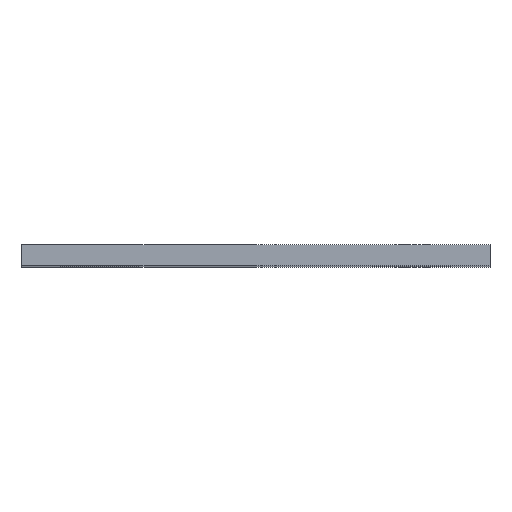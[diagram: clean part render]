
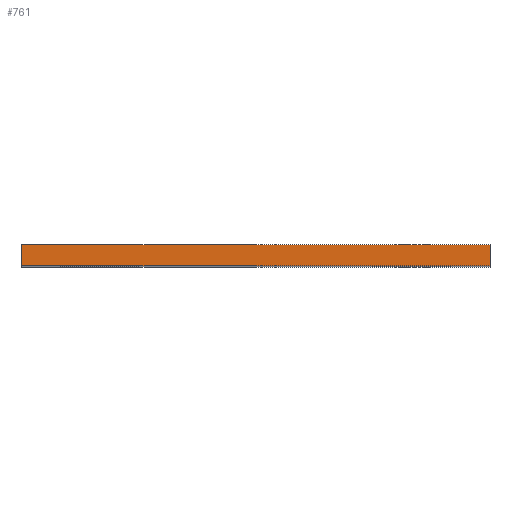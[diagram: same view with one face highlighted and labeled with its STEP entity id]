
A CAD part, top view. The second image highlights one B-rep face of the part: STEP entity #761.
In plain terms, the highlighted planar face has unit normal (0, 0, 1).
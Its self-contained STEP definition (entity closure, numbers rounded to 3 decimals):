
#24 = VERTEX_POINT('',#25);
#25 = CARTESIAN_POINT('',(78.,1.6,76.));
#32 = PLANE('',#33);
#33 = AXIS2_PLACEMENT_3D('',#34,#35,#36);
#34 = CARTESIAN_POINT('',(78.,1.6,14.));
#35 = DIRECTION('',(1.,0.,-0.));
#36 = DIRECTION('',(0.,0.,1.));
#44 = PLANE('',#45);
#45 = AXIS2_PLACEMENT_3D('',#46,#47,#48);
#46 = CARTESIAN_POINT('',(78.,1.6,14.));
#47 = DIRECTION('',(-0.,1.,0.));
#48 = DIRECTION('',(0.,0.,1.));
#85 = VERTEX_POINT('',#86);
#86 = CARTESIAN_POINT('',(78.,3.2,76.));
#100 = PLANE('',#101);
#101 = AXIS2_PLACEMENT_3D('',#102,#103,#104);
#102 = CARTESIAN_POINT('',(78.,3.2,14.));
#103 = DIRECTION('',(-0.,1.,0.));
#104 = DIRECTION('',(0.,0.,1.));
#112 = EDGE_CURVE('',#24,#85,#113,.T.);
#113 = SURFACE_CURVE('',#114,(#118,#125),.PCURVE_S1.);
#114 = LINE('',#115,#116);
#115 = CARTESIAN_POINT('',(78.,1.6,76.));
#116 = VECTOR('',#117,1.);
#117 = DIRECTION('',(-0.,1.,0.));
#118 = PCURVE('',#32,#119);
#119 = DEFINITIONAL_REPRESENTATION('',(#120),#124);
#120 = LINE('',#121,#122);
#121 = CARTESIAN_POINT('',(62.,0.));
#122 = VECTOR('',#123,1.);
#123 = DIRECTION('',(0.,-1.));
#124 = ( GEOMETRIC_REPRESENTATION_CONTEXT(2) 
PARAMETRIC_REPRESENTATION_CONTEXT() REPRESENTATION_CONTEXT('2D SPACE',''
  ) );
#125 = PCURVE('',#126,#131);
#126 = PLANE('',#127);
#127 = AXIS2_PLACEMENT_3D('',#128,#129,#130);
#128 = CARTESIAN_POINT('',(78.,1.6,76.));
#129 = DIRECTION('',(0.,0.,1.));
#130 = DIRECTION('',(1.,0.,-0.));
#131 = DEFINITIONAL_REPRESENTATION('',(#132),#136);
#132 = LINE('',#133,#134);
#133 = CARTESIAN_POINT('',(0.,0.));
#134 = VECTOR('',#135,1.);
#135 = DIRECTION('',(0.,1.));
#136 = ( GEOMETRIC_REPRESENTATION_CONTEXT(2) 
PARAMETRIC_REPRESENTATION_CONTEXT() REPRESENTATION_CONTEXT('2D SPACE',''
  ) );
#165 = EDGE_CURVE('',#24,#166,#168,.T.);
#166 = VERTEX_POINT('',#167);
#167 = CARTESIAN_POINT('',(114.,1.6,76.));
#168 = SURFACE_CURVE('',#169,(#173,#180),.PCURVE_S1.);
#169 = LINE('',#170,#171);
#170 = CARTESIAN_POINT('',(78.,1.6,76.));
#171 = VECTOR('',#172,1.);
#172 = DIRECTION('',(1.,0.,-0.));
#173 = PCURVE('',#44,#174);
#174 = DEFINITIONAL_REPRESENTATION('',(#175),#179);
#175 = LINE('',#176,#177);
#176 = CARTESIAN_POINT('',(62.,0.));
#177 = VECTOR('',#178,1.);
#178 = DIRECTION('',(0.,1.));
#179 = ( GEOMETRIC_REPRESENTATION_CONTEXT(2) 
PARAMETRIC_REPRESENTATION_CONTEXT() REPRESENTATION_CONTEXT('2D SPACE',''
  ) );
#180 = PCURVE('',#126,#181);
#181 = DEFINITIONAL_REPRESENTATION('',(#182),#186);
#182 = LINE('',#183,#184);
#183 = CARTESIAN_POINT('',(0.,0.));
#184 = VECTOR('',#185,1.);
#185 = DIRECTION('',(1.,0.));
#186 = ( GEOMETRIC_REPRESENTATION_CONTEXT(2) 
PARAMETRIC_REPRESENTATION_CONTEXT() REPRESENTATION_CONTEXT('2D SPACE',''
  ) );
#202 = PLANE('',#203);
#203 = AXIS2_PLACEMENT_3D('',#204,#205,#206);
#204 = CARTESIAN_POINT('',(114.,1.6,14.));
#205 = DIRECTION('',(1.,0.,-0.));
#206 = DIRECTION('',(0.,0.,1.));
#761 = ADVANCED_FACE('',(#762),#126,.T.);
#762 = FACE_BOUND('',#763,.T.);
#763 = EDGE_LOOP('',(#764,#765,#766,#789));
#764 = ORIENTED_EDGE('',*,*,#112,.F.);
#765 = ORIENTED_EDGE('',*,*,#165,.T.);
#766 = ORIENTED_EDGE('',*,*,#767,.T.);
#767 = EDGE_CURVE('',#166,#768,#770,.T.);
#768 = VERTEX_POINT('',#769);
#769 = CARTESIAN_POINT('',(114.,3.2,76.));
#770 = SURFACE_CURVE('',#771,(#775,#782),.PCURVE_S1.);
#771 = LINE('',#772,#773);
#772 = CARTESIAN_POINT('',(114.,1.6,76.));
#773 = VECTOR('',#774,1.);
#774 = DIRECTION('',(-0.,1.,0.));
#775 = PCURVE('',#126,#776);
#776 = DEFINITIONAL_REPRESENTATION('',(#777),#781);
#777 = LINE('',#778,#779);
#778 = CARTESIAN_POINT('',(36.,0.));
#779 = VECTOR('',#780,1.);
#780 = DIRECTION('',(0.,1.));
#781 = ( GEOMETRIC_REPRESENTATION_CONTEXT(2) 
PARAMETRIC_REPRESENTATION_CONTEXT() REPRESENTATION_CONTEXT('2D SPACE',''
  ) );
#782 = PCURVE('',#202,#783);
#783 = DEFINITIONAL_REPRESENTATION('',(#784),#788);
#784 = LINE('',#785,#786);
#785 = CARTESIAN_POINT('',(62.,0.));
#786 = VECTOR('',#787,1.);
#787 = DIRECTION('',(0.,-1.));
#788 = ( GEOMETRIC_REPRESENTATION_CONTEXT(2) 
PARAMETRIC_REPRESENTATION_CONTEXT() REPRESENTATION_CONTEXT('2D SPACE',''
  ) );
#789 = ORIENTED_EDGE('',*,*,#790,.F.);
#790 = EDGE_CURVE('',#85,#768,#791,.T.);
#791 = SURFACE_CURVE('',#792,(#796,#803),.PCURVE_S1.);
#792 = LINE('',#793,#794);
#793 = CARTESIAN_POINT('',(78.,3.2,76.));
#794 = VECTOR('',#795,1.);
#795 = DIRECTION('',(1.,0.,-0.));
#796 = PCURVE('',#126,#797);
#797 = DEFINITIONAL_REPRESENTATION('',(#798),#802);
#798 = LINE('',#799,#800);
#799 = CARTESIAN_POINT('',(0.,1.6));
#800 = VECTOR('',#801,1.);
#801 = DIRECTION('',(1.,0.));
#802 = ( GEOMETRIC_REPRESENTATION_CONTEXT(2) 
PARAMETRIC_REPRESENTATION_CONTEXT() REPRESENTATION_CONTEXT('2D SPACE',''
  ) );
#803 = PCURVE('',#100,#804);
#804 = DEFINITIONAL_REPRESENTATION('',(#805),#809);
#805 = LINE('',#806,#807);
#806 = CARTESIAN_POINT('',(62.,0.));
#807 = VECTOR('',#808,1.);
#808 = DIRECTION('',(0.,1.));
#809 = ( GEOMETRIC_REPRESENTATION_CONTEXT(2) 
PARAMETRIC_REPRESENTATION_CONTEXT() REPRESENTATION_CONTEXT('2D SPACE',''
  ) );
